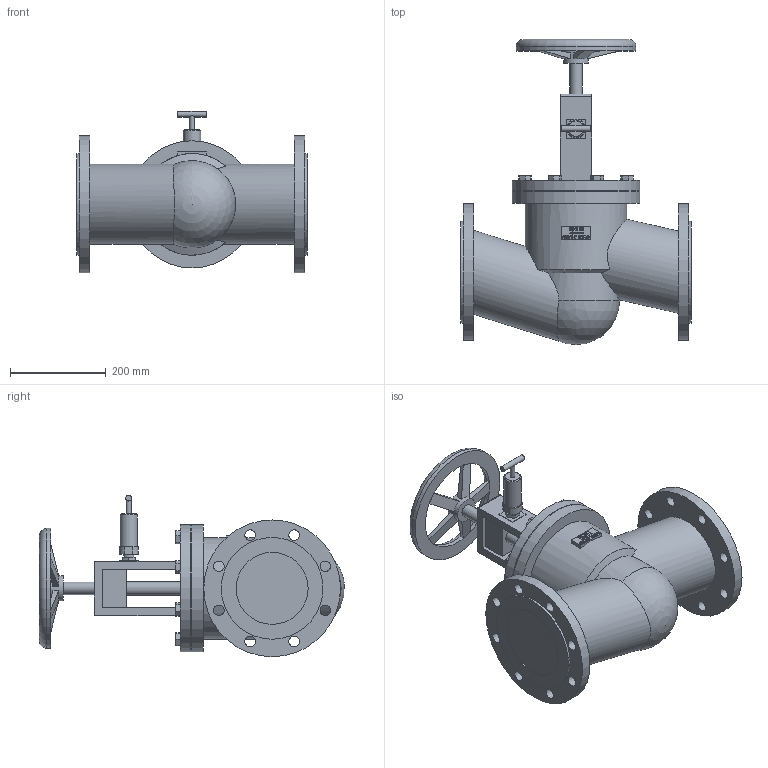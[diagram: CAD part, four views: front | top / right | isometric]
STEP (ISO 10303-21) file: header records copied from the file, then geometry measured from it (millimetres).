
FILE_DESCRIPTION(/* description */ (''),/* implementation_level */ '2;1');
FILE_NAME(/* name */ '100-247HP-DN150-PN16.stp',/* time_stamp */ '2024-07-08T21:53:44+02:00',/* author */ ('roger.thijssen'),/* organization */ (''),/* preprocessor_version */ 'ST-DEVELOPER v20',/* originating_system */ 'Autodesk Inventor 2024',/* authorisation */ '');
FILE_SCHEMA (('AUTOMOTIVE_DESIGN { 1 0 10303 214 3 1 1 }'));
Length unit declared in the file: millimetre
Products named in the file (1): 100-247HP-DN150-PN16
Bounding box: 480 x 636 x 336.5 mm (x, y, z)
Volume: 21053030.3 mm3; surface area: 923442.2 mm2
Topology: 1 solids, 1 shells, 400 faces, 1048 edges, 698 vertices
Faces by surface type: plane 270, bspline 70, cylinder 55, cone 3, torus 1, sphere 1
Full cylindrical faces by diameter (mm): 10 x1, 12 x1, 21 x1, 22 x16, 26 x1, 28 x1, 36 x1, 52 x1, 150 x2, 167 x2, 190 x1, 195 x1, 212 x3, 250 x1, 265 x2, 285 x2
Entity records: 13600 total; most frequent: CARTESIAN_POINT 3506, ORIENTED_EDGE 2094, DIRECTION 1695, EDGE_CURVE 1047, LINE 749, VECTOR 749, VERTEX_POINT 698, EDGE_LOOP 495
